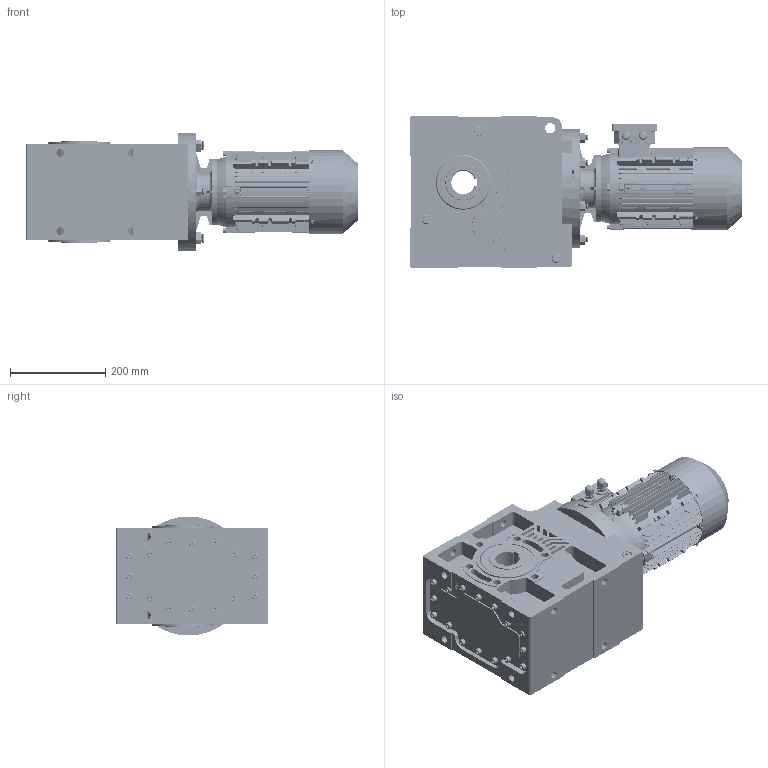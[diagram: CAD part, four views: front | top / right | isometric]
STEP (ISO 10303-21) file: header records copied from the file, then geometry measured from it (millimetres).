
FILE_DESCRIPTION (( 'STEP AP203' ), '1' );
FILE_NAME ('KV_473_0_MX3-90L.STEP', '2018-11-21T10:09:38', ( '' ), ( '' ), 'SwSTEP 2.0', 'SolidWorks 2012', '' );
FILE_SCHEMA (( 'CONFIG_CONTROL_DESIGN' ));
Length unit declared in the file: millimetre
Products named in the file (26): MX3-90L_B14; hexagon nuts grade c gb_GB_FASTENER_NUT_SNC1 M6-N_1; IE3 90L  oil seal_1; IE3-90L flange B14; cross recessed pan head screws gb_GB_CROSS_SCREWS_TYPE1 M5X10-10  H type-N_1; plain washers-n series-grade a gb_GB_FASTENER_WASHER_PWNA 4_1; cross recessed pan head screws gb_GB_CROSS_SCREWS_TYPE1 M4X5-5  H type-N_1; IE3 90L cable glandsM16_1; circlips for shaft--type a large gb_GB_CONNECTING_PIECE_RING_RRA 19_1; IE3 90L flange_1; IE3 90L grouding mark_1; hexagon socket head cap screws gb_GB_FASTENER_SCREWS_HSHCS M6X30-N_1; spring lock washers--normal type gb_GB_FASTENER_WASHER_SW 6_1; cross recessed pan head tapping screws gb_GB_CROSS_SCREWS_TYPE128 ST4.2X9.5 H C-N_1; hexagon flange head tapping screws gb_GB_SQUARE_AND_HEXAGON_TYPE137 ST4.2X9.5 F-N_1; IE3 90L terminal box_1; plain parallel keys_GB_CONNECTING_PIECE_KEYS_CSK 8X40_1; IE3 90L fan cover_1; IE3 90L terminal box cover_1; IE3 90L casing_1; IE3 90L fan_1; IE3 90L rotor_1; ML58A_Varsayìlan; K473_Varsayìlan; 4390B14_Varsayìlan; KV_473_0_MX3-90L
Assembly tree (55 placements, depth 3):
  KV_473_0_MX3-90L
    K473_Varsayìlan
    4390B14_Varsayìlan
    ML58A_Varsayìlan
    MX3-90L_B14
      IE3 90L casing_1
      IE3 90L rotor_1
      IE3 90L fan_1
      IE3 90L fan cover_1
      plain parallel keys_GB_CONNECTING_PIECE_KEYS_CSK 8X40_1
      IE3 90L terminal box_1
      IE3 90L terminal box cover_1
      spring lock washers--normal type gb_GB_FASTENER_WASHER_SW 6_1  x8
      cross recessed pan head tapping screws gb_GB_CROSS_SCREWS_TYPE128 ST4.2X9.5 H C-N_1  x4
      hexagon flange head tapping screws gb_GB_SQUARE_AND_HEXAGON_TYPE137 ST4.2X9.5 F-N_1  x4
      hexagon socket head cap screws gb_GB_FASTENER_SCREWS_HSHCS M6X30-N_1  x8
      IE3 90L flange_1
      circlips for shaft--type a large gb_GB_CONNECTING_PIECE_RING_RRA 19_1
      IE3 90L grouding mark_1
      plain washers-n series-grade a gb_GB_FASTENER_WASHER_PWNA 4_1
      cross recessed pan head screws gb_GB_CROSS_SCREWS_TYPE1 M4X5-5  H type-N_1
      cross recessed pan head screws gb_GB_CROSS_SCREWS_TYPE1 M5X10-10  H type-N_1  x4
      IE3 90L cable glandsM16_1  x2
      IE3 90L  oil seal_1
      hexagon nuts grade c gb_GB_FASTENER_NUT_SNC1 M6-N_1  x7
      IE3-90L flange B14
Bounding box: 698.4 x 320 x 250 mm (x, y, z)
Volume: 20813870.3 mm3; surface area: 1832516.4 mm2
Topology: 54 solids, 54 shells, 5997 faces, 15309 edges, 9493 vertices
Faces by surface type: plane 2372, cylinder 1872, bspline 1079, cone 480, sphere 100, torus 94
Entity records: 208900 total; most frequent: CARTESIAN_POINT 83291, ORIENTED_EDGE 27248, DIRECTION 22977, EDGE_CURVE 13624, VERTEX_POINT 8536, AXIS2_PLACEMENT_3D 8258, LINE 6461, VECTOR 6461
